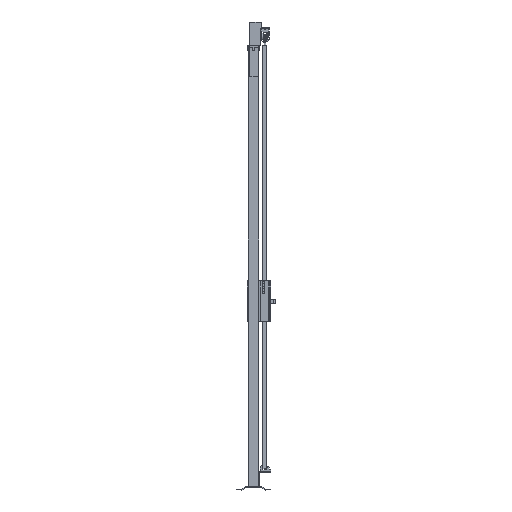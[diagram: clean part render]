
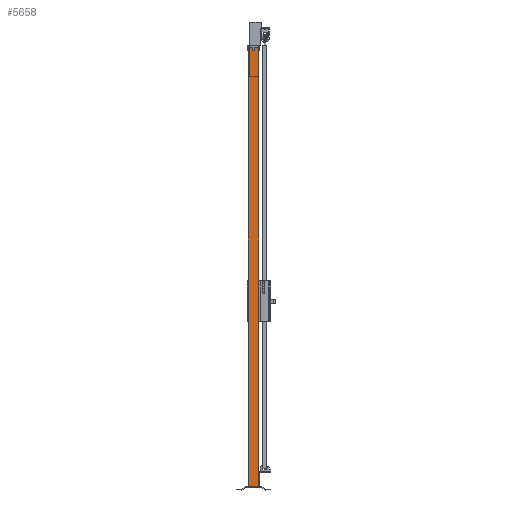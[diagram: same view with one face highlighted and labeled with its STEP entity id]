
A CAD part, left-side view. The second image highlights one B-rep face of the part: STEP entity #5658.
In plain terms, the highlighted planar face has unit normal (-1, 0, 0).
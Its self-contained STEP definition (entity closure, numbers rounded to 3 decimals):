
#537=FACE_OUTER_BOUND('',#940,.T.);
#940=EDGE_LOOP('',(#3668,#3669,#3670,#3671));
#1426=VERTEX_POINT('',#11850);
#1427=VERTEX_POINT('',#11852);
#1430=VERTEX_POINT('',#11859);
#1431=VERTEX_POINT('',#11861);
#2288=EDGE_CURVE('',#1426,#1427,#6569,.T.);
#2292=EDGE_CURVE('',#1430,#1431,#6573,.T.);
#2294=EDGE_CURVE('',#1427,#1430,#6575,.T.);
#2296=EDGE_CURVE('',#1426,#1431,#6577,.T.);
#3668=ORIENTED_EDGE('',*,*,#2296,.T.);
#3669=ORIENTED_EDGE('',*,*,#2292,.F.);
#3670=ORIENTED_EDGE('',*,*,#2294,.F.);
#3671=ORIENTED_EDGE('',*,*,#2288,.F.);
#5298=PLANE('',#8439);
#5658=ADVANCED_FACE('',(#537),#5298,.F.);
#6569=LINE('',#11853,#7605);
#6573=LINE('',#11862,#7609);
#6575=LINE('',#11865,#7611);
#6577=LINE('',#11868,#7613);
#7605=VECTOR('',#9458,1.);
#7609=VECTOR('',#9464,1.);
#7611=VECTOR('',#9468,1.);
#7613=VECTOR('',#9472,1.);
#8439=AXIS2_PLACEMENT_3D('',#11867,#9470,#9471);
#9458=DIRECTION('',(0.,-1.,0.));
#9464=DIRECTION('',(0.,1.,0.));
#9468=DIRECTION('',(0.,0.,-1.));
#9470=DIRECTION('center_axis',(1.,0.,0.));
#9471=DIRECTION('ref_axis',(0.,0.,-1.));
#9472=DIRECTION('',(0.,0.,-1.));
#11850=CARTESIAN_POINT('',(-30.,30.,2520.));
#11852=CARTESIAN_POINT('',(-30.,-30.,2520.));
#11853=CARTESIAN_POINT('',(-30.,0.,2520.));
#11859=CARTESIAN_POINT('',(-30.,-30.,20.));
#11861=CARTESIAN_POINT('',(-30.,30.,20.));
#11862=CARTESIAN_POINT('',(-30.,0.,20.));
#11865=CARTESIAN_POINT('',(-30.,-30.,1270.));
#11867=CARTESIAN_POINT('Origin',(-30.,0.,
1270.));
#11868=CARTESIAN_POINT('',(-30.,30.,1270.));
